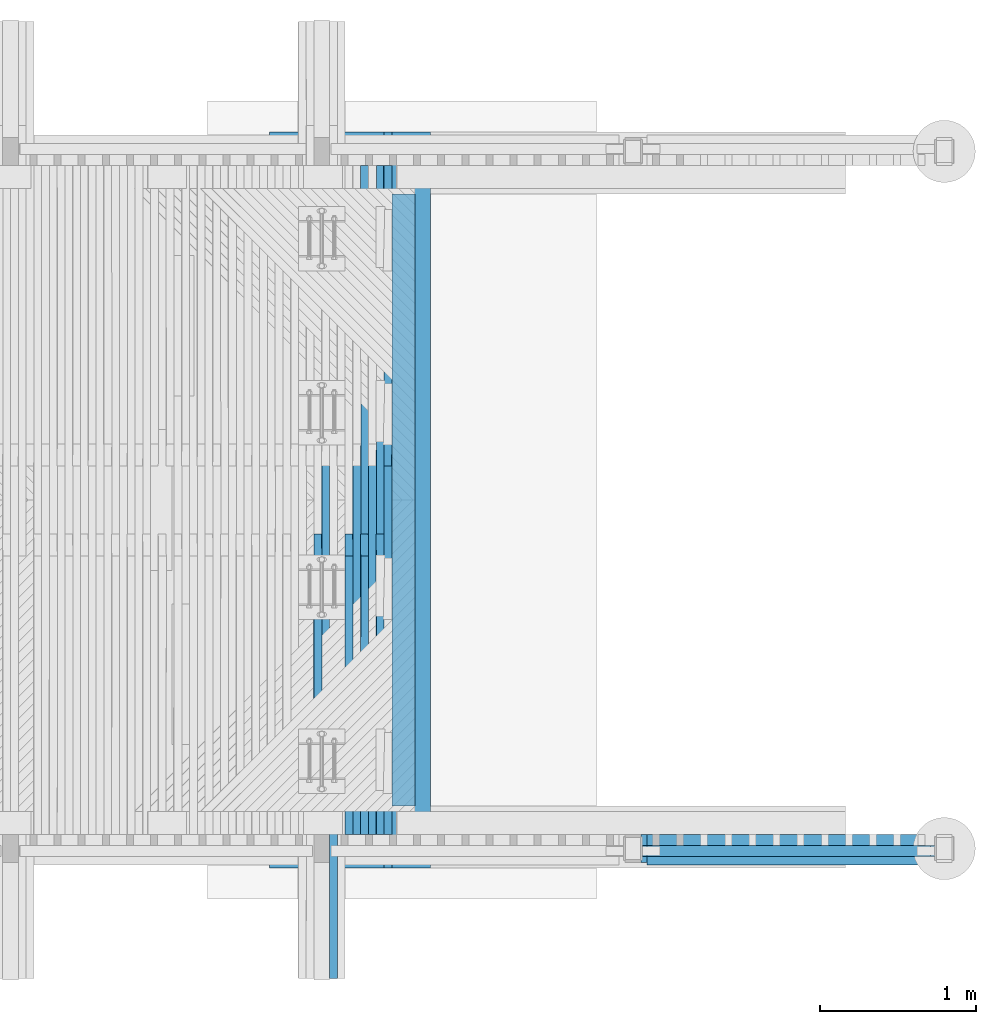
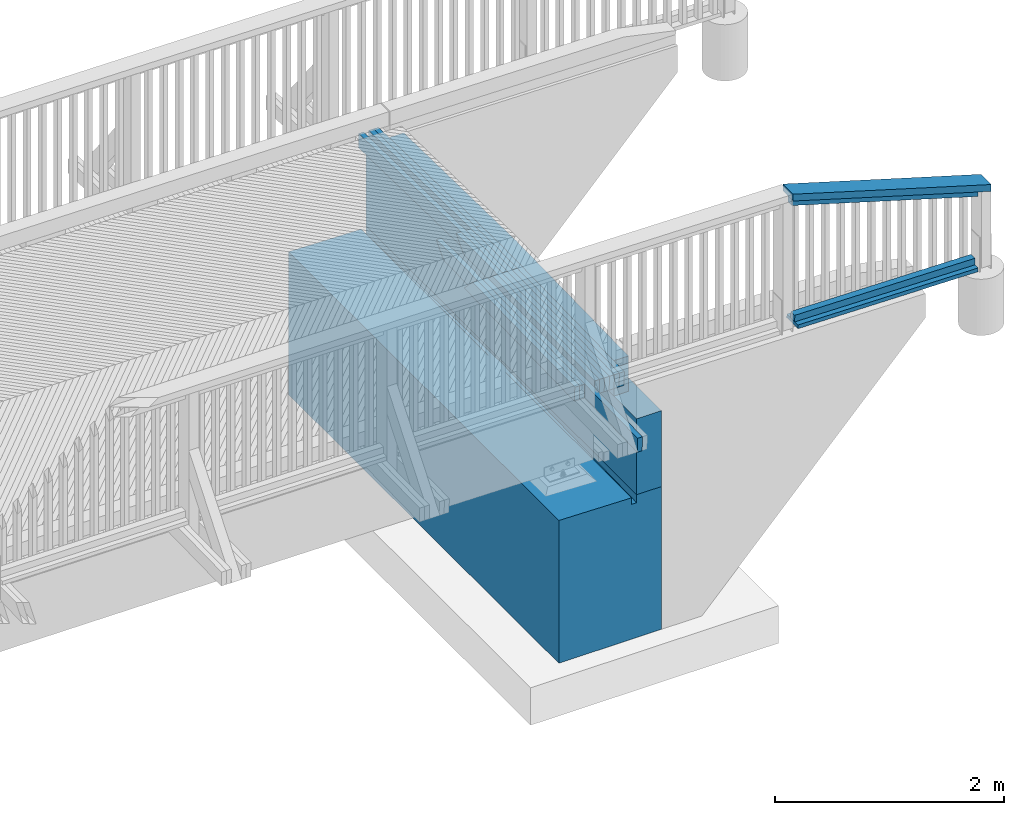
# One storey, part 46 of 53: 21 beams.
"""IFC2X3 building model written with IfcOpenShell, lengths in millimetres."""

import ifcopenshell
import ifcopenshell.guid

model = None  # the IFC model being written
_history = None  # IfcOwnerHistory: only IFC2X3 demands one
_inside = {}  # id of a spatial element -> (the spatial element, [elements in it])
_under = {}  # id of a project, library or spatial element -> (it, [spatial elements below it])
_declared = {}  # id of a project -> (the project, [libraries it declares])
_typed = {}  # id of a type object -> (the type object, [elements of that type])
_made_of = {}  # id of a material, layer set ... -> (it, [elements and type objects made of it])


def new_model(schema):
    """Start an empty IFC model of exactly this schema.

    Asked for "IFC4X3", IfcOpenShell would pick the latest addendum, in which some entities
    have other attributes; the version numbers below select the first issue.
    IFC2X3 requires an IfcOwnerHistory on every rooted entity: one is made here for all.
    """
    global model, _history
    if schema == "IFC4X3":
        model = ifcopenshell.file(schema_version=(4, 3, 0, 0))
    else:
        model = ifcopenshell.file(schema=schema)
    _inside.clear()
    _under.clear()
    _declared.clear()
    _typed.clear()
    _made_of.clear()
    _history = None
    if model.schema == "IFC2X3":
        org = make("IfcOrganization", Name="unknown")
        user = make(
            "IfcPersonAndOrganization",
            ThePerson=make("IfcPerson", FamilyName="unknown"),
            TheOrganization=org,
        )
        app = make(
            "IfcApplication",
            ApplicationDeveloper=org,
            Version="unknown",
            ApplicationFullName="unknown",
            ApplicationIdentifier="unknown",
        )
        _history = make(
            "IfcOwnerHistory",
            OwningUser=user,
            OwningApplication=app,
            ChangeAction="ADDED",
            CreationDate=0,
        )
    return model


def make(cls, **values):
    """One entity of the class cls with the attributes given. An attribute that is None is left unset."""
    return model.create_entity(
        cls, **{name: value for name, value in values.items() if value is not None}
    )


def rooted(cls, **values):
    """An entity with a GlobalId (a new one), such as an element, a storey or a relation."""
    return make(cls, GlobalId=ifcopenshell.guid.new(), OwnerHistory=_history, **values)


def si_unit(unit_type, name, prefix=None):
    """IfcSIUnit, for example si_unit("LENGTHUNIT", "METRE", prefix="MILLI")."""
    return make("IfcSIUnit", UnitType=unit_type, Prefix=prefix, Name=name)


def assignment(units):
    """IfcUnitAssignment: the units of a project."""
    return None if units is None else make("IfcUnitAssignment", Units=units)


def point(xyz):
    """IfcCartesianPoint."""
    return None if xyz is None else make("IfcCartesianPoint", Coordinates=xyz)


def direction(xyz):
    """IfcDirection."""
    return None if xyz is None else make("IfcDirection", DirectionRatios=xyz)


def frame(location, z_axis=None, x_axis=None):
    """IfcAxis2Placement3D, a coordinate frame: its origin and axes. An axis left out is left unset."""
    return make(
        "IfcAxis2Placement3D",
        Location=point(location),
        Axis=direction(z_axis),
        RefDirection=direction(x_axis),
    )


def origin_with_axes():
    """The frame at (0, 0, 0) with the z axis (0, 0, 1) and the x axis (1, 0, 0) written out."""
    return frame((0.0, 0.0, 0.0), z_axis=(0.0, 0.0, 1.0), x_axis=(1.0, 0.0, 0.0))


def place(relative_to, where):
    """IfcLocalPlacement: puts the frame where relative to a parent placement (None: the world)."""
    return make(
        "IfcLocalPlacement", PlacementRelTo=relative_to, RelativePlacement=where
    )


def context(
    kind, dimensions, precision=None, world=None, true_north=None, identifier=None
):
    """IfcGeometricRepresentationContext, for example the 3D "Model" context."""
    return make(
        "IfcGeometricRepresentationContext",
        ContextIdentifier=identifier,
        ContextType=kind,
        CoordinateSpaceDimension=dimensions,
        Precision=precision,
        WorldCoordinateSystem=world,
        TrueNorth=true_north,
    )


def subcontext(parent, identifier, kind, view, scale=None):
    """IfcGeometricRepresentationSubContext, for example "Body" below "Model"."""
    return make(
        "IfcGeometricRepresentationSubContext",
        ContextIdentifier=identifier,
        ContextType=kind,
        ParentContext=parent,
        TargetScale=scale,
        TargetView=view,
    )


def project(units=None, contexts=None):
    """IfcProject with its units and contexts."""
    return rooted(
        "IfcProject",
        Name="project",
        RepresentationContexts=contexts,
        UnitsInContext=assignment(units),
    )


def spatial(cls, under=None, at=None, **own):
    """A site, building, storey or space (cls), placed at a placement, below another one or the project."""
    s = rooted(cls, ObjectPlacement=at, **own)
    if under is not None:
        _under.setdefault(under.id(), (under, []))[1].append(s)
    return s


def faces_of(points, faces, orient=None, outer=None):
    """IfcFace entities. A face is a list of loops; a loop is a list of indices into points, from 0.

    orient and outer hold one flag for each loop. By default every Orientation is true, the
    first loop of a face is its IfcFaceOuterBound and the others are IfcFaceBound.
    """
    made = []
    for i, loops in enumerate(faces):
        bounds = []
        for j, loop in enumerate(loops):
            is_outer = j == 0 if outer is None else outer[i][j]
            bounds.append(
                make(
                    "IfcFaceOuterBound" if is_outer else "IfcFaceBound",
                    Bound=make("IfcPolyLoop", Polygon=[points[k] for k in loop]),
                    Orientation=True if orient is None else orient[i][j],
                )
            )
        made.append(make("IfcFace", Bounds=bounds))
    return made


def faceted_brep(points, faces, orient=None, outer=None, voids=None):
    """IfcFacetedBrep: a solid bounded by flat faces; with voids (closed shells), ...WithVoids."""
    shared = [point(p) for p in points]
    hull = make("IfcClosedShell", CfsFaces=faces_of(shared, faces, orient, outer))
    if voids is None:
        return make("IfcFacetedBrep", Outer=hull)
    return make(
        "IfcFacetedBrepWithVoids",
        Outer=hull,
        Voids=[
            make(cls, CfsFaces=faces_of(shared, fs, o, b)) for cls, fs, o, b in voids
        ],
    )


def shape(context_of_items, identifier, shape_type, items):
    """IfcShapeRepresentation: the items that make up one representation, for example the "Body"."""
    return make(
        "IfcShapeRepresentation",
        ContextOfItems=context_of_items,
        RepresentationIdentifier=identifier,
        RepresentationType=shape_type,
        Items=items,
    )


def material(Name=None, Category=None):
    """IfcMaterial."""
    return make("IfcMaterial", Name=Name, Category=Category)


def made_of(thing, what):
    """Note that an element or type object is made of a material, layer set ...; save() writes the relation."""
    if what is not None:
        _made_of.setdefault(what.id(), (what, []))[1].append(thing)
    return thing


def type_object(cls, material=None, **own):
    """A type object (cls), such as IfcWallType, which elements share."""
    return made_of(rooted(cls, **own), material)


def element(
    cls,
    number,
    at=None,
    inside=None,
    cuts=None,
    type_object=None,
    material=None,
    context=None,
    identifier="Body",
    shape_type=None,
    held_by="IfcProductDefinitionShape",
    body=None,
    shapes=None,
    **own,
):
    """One element of the class cls, such as IfcWall. Its Tag is "e" and its number.

    at: its placement. inside: the storey or other place that contains it. cuts: it is an
    opening in that element (IfcRelVoidsElement). A single representation is given by context,
    identifier, shape_type and body (its items); several are given by shapes. held_by: the class
    of the entity that holds the representations. save() writes the other relations.
    """
    e = rooted(cls, Tag="e%d" % number, ObjectPlacement=at, **own)
    if body is not None:
        shapes = [shape(context, identifier, shape_type, body)]
    if shapes is not None:
        e.Representation = make(held_by, Representations=shapes)
    if inside is not None:
        _inside.setdefault(inside.id(), (inside, []))[1].append(e)
    if cuts is not None:
        rooted(
            "IfcRelVoidsElement", RelatingBuildingElement=cuts, RelatedOpeningElement=e
        )
    if type_object is not None:
        _typed.setdefault(type_object.id(), (type_object, []))[1].append(e)
    return made_of(e, material)


def aggregate(whole, parts):
    """IfcRelAggregates: a whole, such as a stair, and the parts it consists of."""
    return rooted("IfcRelAggregates", RelatingObject=whole, RelatedObjects=parts)


def save(model, path):
    """Write the relations noted so far, then the file.

    IfcRelAggregates (storeys below a building ...), IfcRelContainedInSpatialStructure (elements
    in a storey), IfcRelDefinesByType, IfcRelAssociatesMaterial and IfcRelDeclares: one each for
    every whole, place, type object, material and project.
    """
    for whole, parts in _under.values():
        aggregate(whole, parts)
    for where, things in _inside.values():
        rooted(
            "IfcRelContainedInSpatialStructure",
            RelatedElements=things,
            RelatingStructure=where,
        )
    for kind, things in _typed.values():
        rooted("IfcRelDefinesByType", RelatedObjects=things, RelatingType=kind)
    for what, things in _made_of.values():
        rooted("IfcRelAssociatesMaterial", RelatedObjects=things, RelatingMaterial=what)
    for by, libraries in _declared.values():
        rooted("IfcRelDeclares", RelatingContext=by, RelatedDefinitions=libraries)
    model.write(path)


model = new_model("IFC2X3")

# Units and contexts
model_context = context("Model", 3, precision=1e-05, world=origin_with_axes())
body_context = subcontext(model_context, "Body", "Model", "MODEL_VIEW")
ifc_project = project(units=[si_unit("LENGTHUNIT", "METRE", prefix="MILLI"), si_unit("AREAUNIT", "SQUARE_METRE"), si_unit("VOLUMEUNIT", "CUBIC_METRE"), si_unit("MASSUNIT", "GRAM", prefix="KILO"), si_unit("TIMEUNIT", "SECOND"), si_unit("PLANEANGLEUNIT", "RADIAN"), si_unit("SOLIDANGLEUNIT", "STERADIAN"), si_unit("THERMODYNAMICTEMPERATUREUNIT", "DEGREE_CELSIUS"), si_unit("LUMINOUSINTENSITYUNIT", "LUMEN")], contexts=[model_context])

# Site, building, storey
site_placement = place(None, origin_with_axes())
site = spatial("IfcSite", under=ifc_project, at=site_placement, Name="Undefined", CompositionType="ELEMENT")
building_placement = place(site_placement, origin_with_axes())
building = spatial("IfcBuilding", under=site, at=building_placement, Name="Undefined", CompositionType="ELEMENT")
storey_placement = place(building_placement, origin_with_axes())
storey = spatial("IfcBuildingStorey", under=building, at=storey_placement, Name="Undefined", CompositionType="ELEMENT", Elevation=0.0)

# Beams
ifc_material_1 = material(Name="TIMBER/Timber_Undefined")
beam_type_1 = type_object("IfcBeamType", Name="150*150", PredefinedType="NOTDEFINED")
beam_1_placement = place(storey_placement, frame((16525.0, 40399.9992755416, 3109.00000000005), z_axis=(1.0, 0.0, 0.0), x_axis=(0.0, 1.0, 0.0)))
element("IfcBeam", 1, at=beam_1_placement, inside=storey, type_object=beam_type_1, material=ifc_material_1, Name="BEAM", ObjectType="150*150", context=body_context, shape_type="Brep", body=[
    faceted_brep([(0.0, -75.0000000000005, 75.0), (0.0, -75.0000000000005, -75.0), (3930.0, -75.0, -75.0), (3930.0, -75.0, 75.0), (3930.0, 3.17681141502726, -75.0), (3930.0, 0.558028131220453, 75.0), (1965.00070282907, 39.8541855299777, 75.0), (0.0, 0.558000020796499, 75.0), (0.0, 3.17678330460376, -75.0), (1965.00070282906, 42.472968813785, -75.0)], [[[0, 1, 2, 3]], [[3, 2, 4, 5]], [[0, 3, 5, 6, 7]], [[1, 0, 7, 8]], [[4, 2, 1, 8, 9]], [[5, 4, 9, 6]], [[8, 7, 6, 9]]]),
])
for number, where, z_axis, x_axis, name in (
    (2, (16525.0, 40399.9992755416, 2959.00000000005), (1.0, 0.0, 0.0), (0.0, 1.0, 0.0), "BEAM"),
    (3, (16525.0, 40399.9992755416, 2809.00000000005), (1.0, 0.0, 0.0), (0.0, 1.0, 0.0), "BEAM"),
):
    element("IfcBeam", number, at=place(storey_placement, frame(where, z_axis=z_axis, x_axis=x_axis)), inside=storey, type_object=beam_type_1, material=ifc_material_1, Name=name, ObjectType="150*150", context=body_context, shape_type="Brep", body=[
        faceted_brep([(3.63797880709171e-12, 75.0000000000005, -75.0), (3.63797880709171e-12, 75.0000000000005, 75.0), (3930.0, 75.0, 75.0), (3930.0, 75.0, -75.0), (0.0, -75.0000000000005, 75.0), (3930.0, -75.0, 75.0), (0.0, -75.0000000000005, -75.0), (3930.0, -75.0, -75.0)], [[[0, 1, 2, 3]], [[1, 4, 5, 2]], [[4, 6, 7, 5]], [[6, 0, 3, 7]], [[5, 7, 3, 2]], [[6, 4, 1, 0]]]),
    ])
ifc_material_2 = material(Name="CONCRETE/Concrete_Undefined")
beam_type_2 = type_object("IfcBeamType", Name="810*250", PredefinedType="NOTDEFINED")
beam_2_placement = place(storey_placement, frame((16575.0, 40000.0, 2329.0), z_axis=(0.0, 0.0, 1.0), x_axis=(0.0, 1.0, 0.0)))
element("IfcBeam", 4, at=beam_2_placement, inside=storey, type_object=beam_type_2, material=ifc_material_2, Name="OTSAMUURI", ObjectType="810*250", context=body_context, shape_type="Brep", body=[
    faceted_brep([(0.0, 125.0, -405.0), (0.0, 125.0, 405.0), (4730.0, 125.0, 405.0), (4730.0, 125.0, -405.0), (0.0, -125.0, 405.0), (4730.0, -125.0, 405.0), (0.0, -125.0, -405.0), (4730.0, -125.0, -405.0)], [[[0, 1, 2, 3]], [[1, 4, 5, 2]], [[4, 6, 7, 5]], [[6, 0, 3, 7]], [[5, 7, 3, 2]], [[6, 4, 1, 0]]]),
])
beam_type_3 = type_object("IfcBeamType", Name="1524*1035", PredefinedType="NOTDEFINED")
beam_3_placement = place(storey_placement, frame((16182.5, 40000.0, 1162.0), z_axis=(0.0, 0.0, 1.0), x_axis=(0.0, 1.0, 0.0)))
element("IfcBeam", 5, at=beam_3_placement, inside=storey, type_object=beam_type_3, material=ifc_material_2, Name="LAAKERIPALKKI", ObjectType="1524*1035", context=body_context, shape_type="Brep", body=[
    faceted_brep([(4730.0, -217.5, 747.0), (2367.30822656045, -217.5, 747.0), (2367.55223388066, -217.5, 737.442575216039), (4730.0, -217.5, 676.997414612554), (2367.55223388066, -267.5, 737.442575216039), (4730.0, -267.5, 676.997414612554), (4730.0, -267.5, 762.0), (2366.92526672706, -267.5, 762.0), (4730.0, 517.5, -762.0), (0.0, 517.5, -762.0), (0.0, 517.5, 762.0), (4730.0, 517.5, 762.0), (0.0, -517.5, -762.0), (4730.0, -517.5, -762.0), (0.0, -517.5, 762.0), (4730.0, -517.5, 762.0), (2363.07473327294, -267.5, 762.0), (0.0, -267.5, 762.0), (0.0, -267.5, 676.997414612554), (0.0, -217.5, 676.997414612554), (0.0, -217.5, 747.0), (2362.45109111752, -267.5, 737.312339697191), (2362.45109111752, -217.5, 737.312339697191), (2362.69177343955, -217.5, 747.0)], [[[0, 1, 2, 3]], [[3, 2, 4, 5]], [[6, 5, 4, 7]], [[8, 9, 10, 11]], [[12, 9, 8, 13]], [[14, 12, 13, 15]], [[16, 17, 14, 15, 6, 7]], [[9, 12, 14, 17, 18, 19, 20, 10]], [[16, 7, 4, 21, 18, 17]], [[18, 21, 4, 2, 22, 19]], [[20, 19, 22, 2, 1, 23]], [[11, 10, 20, 23, 1, 0]], [[15, 13, 8, 11, 0, 3, 5, 6]]]),
])
beam_type_4 = type_object("IfcBeamType", Name="70*70", PredefinedType="NOTDEFINED")
beam_4_placement = place(storey_placement, frame((19930.4049244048, 40110.0099547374, 3879.53617466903), z_axis=(0.0, -1.0, 0.0), x_axis=(-0.958203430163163, 0.0, 0.286087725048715)))
element("IfcBeam", 6, at=beam_4_placement, inside=storey, type_object=beam_type_4, material=ifc_material_1, Name="BEAM", ObjectType="70*70", context=body_context, shape_type="Brep", body=[
    faceted_brep([(-20.4634471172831, 34.9999999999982, -35.0), (-20.4634471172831, 34.9999999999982, 35.0), (1941.54163533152, 34.9999999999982, 35.0), (1941.54163533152, 34.9999999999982, -35.0), (0.436228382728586, -35.0000000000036, 35.0), (1962.44131083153, -35.0000000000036, 35.0), (0.436228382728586, -35.0000000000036, -35.0), (1962.44131083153, -35.0000000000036, -35.0)], [[[0, 1, 2, 3]], [[1, 4, 5, 2]], [[4, 6, 7, 5]], [[6, 0, 3, 7]], [[5, 7, 3, 2]], [[6, 4, 1, 0]]]),
])
beam_5_placement = place(storey_placement, frame((19909.4703719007, 40110.0099700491, 3156.34116342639), z_axis=(0.0, -1.0, 0.0), x_axis=(-0.999883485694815, 0.0, 0.0152648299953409)))
element("IfcBeam", 7, at=beam_5_placement, inside=storey, type_object=beam_type_4, material=ifc_material_1, Name="BEAM", ObjectType="70*70", context=body_context, shape_type="Brep", body=[
    faceted_brep([(-3.63797880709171e-12, 35.0000000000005, -35.0), (-3.63797880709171e-12, 35.0000000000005, 35.0), (1820.22135781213, 35.0, 35.0), (1820.22135781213, 35.0, -35.0), (-3.63797880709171e-12, -34.9999999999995, 35.0), (1820.22135781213, -34.9999999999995, 35.0), (-3.63797880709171e-12, -34.9999999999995, -35.0), (1820.22135781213, -34.9999999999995, -35.0)], [[[0, 1, 2, 3]], [[1, 4, 5, 2]], [[4, 6, 7, 5]], [[6, 0, 3, 7]], [[5, 7, 3, 2]], [[6, 4, 1, 0]]]),
])
beam_type_5 = type_object("IfcBeamType", Name="195*40", PredefinedType="NOTDEFINED")
beam_6_placement = place(storey_placement, frame((19909.6993443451, 40117.5099700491, 3101.33941571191), z_axis=(0.0, -1.0, 0.0), x_axis=(-0.999883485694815, 0.0, 0.0152648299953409)))
element("IfcBeam", 8, at=beam_6_placement, inside=storey, type_object=beam_type_5, material=ifc_material_1, Name="BEAM", ObjectType="195*40", context=body_context, shape_type="Brep", body=[
    faceted_brep([(0.0, 20.0, -97.5), (0.0, 20.0, 97.5), (1820.22135781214, 20.0, 97.5), (1820.22135781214, 20.0, -97.5), (3.63797880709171e-12, -20.0, 97.5), (1820.22135781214, -20.0, 97.5), (3.63797880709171e-12, -20.0, -97.5), (1820.22135781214, -20.0, -97.5)], [[[0, 1, 2, 3]], [[1, 4, 5, 2]], [[4, 6, 7, 5]], [[6, 0, 3, 7]], [[5, 7, 3, 2]], [[6, 4, 1, 0]]]),
])
beam_type_6 = type_object("IfcBeamType", Name="180*70", PredefinedType="NOTDEFINED")
beam_7_placement = place(storey_placement, frame((18039.9342024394, 40125.0099640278, 4517.05500293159), z_axis=(0.0, -1.0, 0.0), x_axis=(0.958243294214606, 0.0, -0.285954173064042)))
element("IfcBeam", 9, at=beam_7_placement, inside=storey, type_object=beam_type_6, material=ifc_material_1, Name="YLÄJOHDE", ObjectType="180*70", context=body_context, shape_type="Brep", body=[
    faceted_brep([(41.6879268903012, -35.0699417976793, -90.0), (41.6879268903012, -35.0699417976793, 90.0), (20.9594530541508, -35.0351891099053, 90.0), (20.9594530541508, -35.0351891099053, -90.0), (41.8028913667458, 34.9299637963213, 90.0), (0.0598773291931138, 34.9999487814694, 90.0), (41.8028913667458, 34.9299637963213, -90.0), (0.0598773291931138, 34.9999487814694, -90.0), (83.5459100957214, 34.8628353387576, -90.0), (83.4357358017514, -35.1370779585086, -90.0), (83.4357358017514, -35.1370779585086, 90.0), (83.5459100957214, 34.8628353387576, 90.0), (125.288933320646, 34.7985634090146, 90.0), (125.288933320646, 34.7985634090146, -90.0), (125.183549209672, -35.2013572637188, -90.0), (125.183549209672, -35.2013572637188, 90.0), (166.931366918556, -35.2627797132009, 90.0), (167.031960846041, 34.7371480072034, 90.0), (167.031960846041, 34.7371480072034, -90.0), (166.931366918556, -35.2627797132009, -90.0), (208.679188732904, -35.3213453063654, -90.0), (208.679188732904, -35.3213453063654, 90.0), (208.774992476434, 34.6785891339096, 90.0), (208.774992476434, 34.6785891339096, -90.0), (250.518028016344, 34.6228867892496, -90.0), (250.42701445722, -35.3770540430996, -90.0), (250.42701445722, -35.3770540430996, 90.0), (250.518028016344, 34.6228867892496, 90.0), (292.261067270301, 34.5700409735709, 90.0), (292.261067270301, 34.5700409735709, -90.0), (292.174843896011, -35.4299059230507, -90.0), (292.174843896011, -35.4299059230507, 90.0), (333.922676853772, -35.4799009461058, 90.0), (334.004110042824, 34.52005168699, 90.0), (334.004110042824, 34.52005168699, -90.0), (333.922676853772, -35.4799009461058, -90.0), (375.670513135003, -35.5270391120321, -90.0), (375.670513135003, -35.5270391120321, 90.0), (375.747156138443, 34.4729189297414, 90.0), (375.747156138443, 34.4729189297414, -90.0), (417.490205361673, 34.4286427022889, -90.0), (417.418352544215, -35.5713204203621, -90.0), (417.418352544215, -35.5713204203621, 90.0), (417.490205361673, 34.4286427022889, 90.0), (459.233257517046, 34.3872230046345, 90.0), (459.233257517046, 34.3872230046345, -90.0), (459.166194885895, -35.6127448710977, -90.0), (459.166194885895, -35.6127448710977, 90.0), (500.914039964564, -35.6513124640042, 90.0), (500.97631240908, 34.3486598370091, 90.0), (500.97631240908, 34.3486598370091, -90.0), (500.914039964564, -35.6513124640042, -90.0), (542.661887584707, -35.6870231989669, -90.0), (542.661887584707, -35.6870231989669, 90.0), (542.719369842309, 34.3129531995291, 90.0), (542.719369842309, 34.3129531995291, -90.0), (584.462429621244, 34.2801030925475, -90.0), (584.40973755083, -35.7198770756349, -90.0), (584.40973755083, -35.7198770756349, 90.0), (584.462429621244, 34.2801030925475, 90.0), (626.205491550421, 34.2501095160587, 90.0), (626.205491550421, 34.2501095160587, -90.0), (626.157589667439, -35.7498740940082, -90.0), (626.157589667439, -35.7498740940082, 90.0), (667.905443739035, -35.7770142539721, 90.0), (667.948555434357, 34.2229724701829, 90.0), (667.948555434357, 34.2229724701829, -90.0), (667.905443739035, -35.7770142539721, -90.0), (709.653299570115, -35.801297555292, -90.0), (709.653299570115, -35.801297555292, 90.0), (709.691621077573, 34.1986919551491, 90.0), (709.691621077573, 34.1986919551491, -90.0), (751.434688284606, 34.1772679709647, -90.0), (751.401156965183, -35.8227239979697, -90.0), (751.401156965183, -35.8227239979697, 90.0), (751.434688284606, 34.1772679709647, 90.0), (793.177756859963, 34.1587005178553, 90.0), (793.177756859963, 34.1587005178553, -90.0), (793.149015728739, -35.8412935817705, -90.0), (793.149015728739, -35.8412935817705, 90.0), (834.896875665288, -35.8570063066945, 90.0), (834.920826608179, 34.1429895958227, 90.0), (834.920826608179, 34.1429895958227, -90.0), (834.896875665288, -35.8570063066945, -90.0), (876.644736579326, -35.8698621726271, -90.0), (876.644736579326, -35.8698621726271, 90.0), (876.663897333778, 34.1301352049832, 90.0), (876.663897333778, 34.1301352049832, -90.0), (918.406968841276, 34.1201373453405, -90.0), (918.392598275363, -35.8798611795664, -90.0), (918.392598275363, -35.8798611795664, 90.0), (918.406968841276, 34.1201373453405, 90.0), (960.150040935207, 34.112996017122, 90.0), (960.150040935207, 34.112996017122, -90.0), (960.140460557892, -35.8870033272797, -90.0), (960.140460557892, -35.8870033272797, 90.0), (1001.88832323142, -35.8912886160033, 90.0), (1001.89311342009, 34.1087112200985, 90.0), (1001.89311342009, 34.1087112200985, -90.0), (1001.88832323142, -35.8912886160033, -90.0), (1043.63618610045, -35.8927170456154, -90.0), (1043.63618610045, -35.8927170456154, 90.0), (1043.63618610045, 34.1072829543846, 90.0), (1043.63618610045, 34.1072829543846, -90.0), (1085.3792587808, 34.1087112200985, -90.0), (1085.38404896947, -35.8912886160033, -90.0), (1085.38404896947, -35.8912886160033, 90.0), (1085.3792587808, 34.1087112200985, 90.0), (1127.12233126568, 34.112996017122, 90.0), (1127.12233126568, 34.112996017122, -90.0), (1127.131911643, -35.8870033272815, -90.0), (1127.131911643, -35.8870033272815, 90.0), (1168.87977392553, -35.8798611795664, 90.0), (1168.86540335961, 34.1201373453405, 90.0), (1168.86540335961, 34.1201373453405, -90.0), (1168.87977392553, -35.8798611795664, -90.0), (1210.62763562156, -35.8698621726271, -90.0), (1210.62763562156, -35.8698621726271, 90.0), (1210.60847486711, 34.130135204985, 90.0), (1210.60847486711, 34.130135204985, -90.0), (1252.35154559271, 34.1429895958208, -90.0), (1252.3754965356, -35.8570063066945, -90.0), (1252.3754965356, -35.8570063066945, 90.0), (1252.35154559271, 34.1429895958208, 90.0), (1294.09461534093, 34.1587005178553, 90.0), (1294.09461534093, 34.1587005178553, -90.0), (1294.12335647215, -35.8412935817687, -90.0), (1294.12335647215, -35.8412935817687, 90.0), (1335.87121523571, -35.8227239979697, 90.0), (1335.83768391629, 34.1772679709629, 90.0), (1335.83768391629, 34.1772679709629, -90.0), (1335.87121523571, -35.8227239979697, -90.0), (1377.61907263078, -35.801297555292, -90.0), (1377.61907263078, -35.801297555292, 90.0), (1377.58075112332, 34.1986919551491, 90.0), (1377.58075112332, 34.1986919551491, -90.0), (1419.32381676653, 34.222972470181, -90.0), (1419.36692846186, -35.7770142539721, -90.0), (1419.36692846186, -35.7770142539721, 90.0), (1419.32381676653, 34.222972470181, 90.0), (1461.06688065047, 34.2501095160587, 90.0), (1461.06688065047, 34.2501095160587, -90.0), (1461.11478253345, -35.74987409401, -90.0), (1461.11478253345, -35.74987409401, 90.0), (1502.86263465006, -35.7198770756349, 90.0), (1502.80994257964, 34.2801030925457, 90.0), (1502.80994257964, 34.2801030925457, -90.0), (1502.86263465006, -35.7198770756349, -90.0), (1544.61048461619, -35.6870231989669, -90.0), (1544.61048461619, -35.6870231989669, 90.0), (1544.55300235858, 34.3129531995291, 90.0), (1544.55300235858, 34.3129531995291, -90.0), (1586.29605979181, 34.3486598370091, -90.0), (1586.35833223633, -35.6513124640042, -90.0), (1586.35833223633, -35.6513124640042, 90.0), (1586.29605979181, 34.3486598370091, 90.0), (1628.03911468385, 34.3872230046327, 90.0), (1628.03911468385, 34.3872230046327, -90.0), (1628.10617731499, -35.6127448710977, -90.0), (1628.10617731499, -35.6127448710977, 90.0), (1669.85401965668, -35.5713204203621, 90.0), (1669.78216683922, 34.4286427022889, 90.0), (1669.78216683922, 34.4286427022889, -90.0), (1669.85401965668, -35.5713204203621, -90.0), (1711.60185906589, -35.5270391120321, -90.0), (1711.60185906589, -35.5270391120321, 90.0), (1711.52521606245, 34.4729189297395, 90.0), (1711.52521606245, 34.4729189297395, -90.0), (1753.26826215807, 34.52005168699, -90.0), (1753.34969534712, -35.4799009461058, -90.0), (1753.34969534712, -35.4799009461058, 90.0), (1753.26826215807, 34.52005168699, 90.0), (1795.01130493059, 34.5700409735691, 90.0), (1795.01130493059, 34.5700409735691, -90.0), (1795.09752830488, -35.4299059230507, -90.0), (1795.09752830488, -35.4299059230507, 90.0), (1836.84535774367, -35.3770540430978, 90.0), (1836.75434418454, 34.6228867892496, 90.0), (1836.75434418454, 34.6228867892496, -90.0), (1836.84535774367, -35.3770540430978, -90.0), (1878.59318346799, -35.3213453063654, -90.0), (1878.59318346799, -35.3213453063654, 90.0), (1878.49737972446, 34.6785891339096, 90.0), (1878.49737972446, 34.6785891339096, -90.0), (1920.24041135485, 34.7371480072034, -90.0), (1920.34100528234, -35.2627797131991, -90.0), (1920.34100528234, -35.2627797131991, 90.0), (1920.24041135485, 34.7371480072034, 90.0), (1961.98343888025, 34.7985634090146, 90.0), (1961.98343888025, 34.7985634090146, -90.0), (1962.08882299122, -35.2013572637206, -90.0), (1962.08882299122, -35.2013572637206, 90.0), (2003.83663639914, -35.1370779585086, 90.0), (2003.72646210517, 34.8628353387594, 90.0), (2003.72646210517, 34.8628353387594, -90.0), (2003.83663639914, -35.1370779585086, -90.0), (2045.58444531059, -35.0699417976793, 90.0), (2045.58444531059, -35.0699417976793, -90.0), (2087.33224953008, -34.9999487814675, -90.0), (2087.33224953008, -34.9999487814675, 90.0), (2045.46948083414, 34.9299637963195, 90.0), (2045.46948083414, 34.9299637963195, -90.0), (2087.2124948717, 34.9999487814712, -90.0), (2108.09074495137, -34.9637252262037, -90.0), (2108.09074495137, -34.9637252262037, 90.0), (2087.2124948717, 34.9999487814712, 90.0)], [[[0, 1, 2, 3]], [[1, 4, 5, 2]], [[4, 6, 7, 5]], [[2, 5, 7, 3]], [[6, 0, 3, 7]], [[0, 6, 8, 9]], [[1, 0, 9, 10]], [[4, 1, 10, 11]], [[6, 4, 11, 8]], [[8, 11, 12, 13]], [[9, 8, 13, 14]], [[10, 9, 14, 15]], [[11, 10, 15, 12]], [[12, 15, 16, 17]], [[13, 12, 17, 18]], [[14, 13, 18, 19]], [[15, 14, 19, 16]], [[16, 19, 20, 21]], [[17, 16, 21, 22]], [[18, 17, 22, 23]], [[19, 18, 23, 20]], [[20, 23, 24, 25]], [[21, 20, 25, 26]], [[22, 21, 26, 27]], [[23, 22, 27, 24]], [[24, 27, 28, 29]], [[25, 24, 29, 30]], [[26, 25, 30, 31]], [[27, 26, 31, 28]], [[28, 31, 32, 33]], [[29, 28, 33, 34]], [[30, 29, 34, 35]], [[31, 30, 35, 32]], [[32, 35, 36, 37]], [[33, 32, 37, 38]], [[34, 33, 38, 39]], [[35, 34, 39, 36]], [[36, 39, 40, 41]], [[37, 36, 41, 42]], [[38, 37, 42, 43]], [[39, 38, 43, 40]], [[40, 43, 44, 45]], [[41, 40, 45, 46]], [[42, 41, 46, 47]], [[43, 42, 47, 44]], [[44, 47, 48, 49]], [[45, 44, 49, 50]], [[46, 45, 50, 51]], [[47, 46, 51, 48]], [[48, 51, 52, 53]], [[49, 48, 53, 54]], [[50, 49, 54, 55]], [[51, 50, 55, 52]], [[52, 55, 56, 57]], [[53, 52, 57, 58]], [[54, 53, 58, 59]], [[55, 54, 59, 56]], [[56, 59, 60, 61]], [[57, 56, 61, 62]], [[58, 57, 62, 63]], [[59, 58, 63, 60]], [[60, 63, 64, 65]], [[61, 60, 65, 66]], [[62, 61, 66, 67]], [[63, 62, 67, 64]], [[64, 67, 68, 69]], [[65, 64, 69, 70]], [[66, 65, 70, 71]], [[67, 66, 71, 68]], [[68, 71, 72, 73]], [[69, 68, 73, 74]], [[70, 69, 74, 75]], [[71, 70, 75, 72]], [[72, 75, 76, 77]], [[73, 72, 77, 78]], [[74, 73, 78, 79]], [[75, 74, 79, 76]], [[76, 79, 80, 81]], [[77, 76, 81, 82]], [[78, 77, 82, 83]], [[79, 78, 83, 80]], [[80, 83, 84, 85]], [[81, 80, 85, 86]], [[82, 81, 86, 87]], [[83, 82, 87, 84]], [[84, 87, 88, 89]], [[85, 84, 89, 90]], [[86, 85, 90, 91]], [[87, 86, 91, 88]], [[88, 91, 92, 93]], [[89, 88, 93, 94]], [[90, 89, 94, 95]], [[91, 90, 95, 92]], [[92, 95, 96, 97]], [[93, 92, 97, 98]], [[94, 93, 98, 99]], [[95, 94, 99, 96]], [[96, 99, 100, 101]], [[97, 96, 101, 102]], [[98, 97, 102, 103]], [[99, 98, 103, 100]], [[100, 103, 104, 105]], [[101, 100, 105, 106]], [[102, 101, 106, 107]], [[103, 102, 107, 104]], [[104, 107, 108, 109]], [[105, 104, 109, 110]], [[106, 105, 110, 111]], [[107, 106, 111, 108]], [[108, 111, 112, 113]], [[109, 108, 113, 114]], [[110, 109, 114, 115]], [[111, 110, 115, 112]], [[112, 115, 116, 117]], [[113, 112, 117, 118]], [[114, 113, 118, 119]], [[115, 114, 119, 116]], [[116, 119, 120, 121]], [[117, 116, 121, 122]], [[118, 117, 122, 123]], [[119, 118, 123, 120]], [[120, 123, 124, 125]], [[121, 120, 125, 126]], [[122, 121, 126, 127]], [[123, 122, 127, 124]], [[124, 127, 128, 129]], [[125, 124, 129, 130]], [[126, 125, 130, 131]], [[127, 126, 131, 128]], [[128, 131, 132, 133]], [[129, 128, 133, 134]], [[130, 129, 134, 135]], [[131, 130, 135, 132]], [[132, 135, 136, 137]], [[133, 132, 137, 138]], [[134, 133, 138, 139]], [[135, 134, 139, 136]], [[136, 139, 140, 141]], [[137, 136, 141, 142]], [[138, 137, 142, 143]], [[139, 138, 143, 140]], [[140, 143, 144, 145]], [[141, 140, 145, 146]], [[142, 141, 146, 147]], [[143, 142, 147, 144]], [[144, 147, 148, 149]], [[145, 144, 149, 150]], [[146, 145, 150, 151]], [[147, 146, 151, 148]], [[148, 151, 152, 153]], [[149, 148, 153, 154]], [[150, 149, 154, 155]], [[151, 150, 155, 152]], [[152, 155, 156, 157]], [[153, 152, 157, 158]], [[154, 153, 158, 159]], [[155, 154, 159, 156]], [[156, 159, 160, 161]], [[157, 156, 161, 162]], [[158, 157, 162, 163]], [[159, 158, 163, 160]], [[160, 163, 164, 165]], [[161, 160, 165, 166]], [[162, 161, 166, 167]], [[163, 162, 167, 164]], [[164, 167, 168, 169]], [[165, 164, 169, 170]], [[166, 165, 170, 171]], [[167, 166, 171, 168]], [[168, 171, 172, 173]], [[169, 168, 173, 174]], [[170, 169, 174, 175]], [[171, 170, 175, 172]], [[172, 175, 176, 177]], [[173, 172, 177, 178]], [[174, 173, 178, 179]], [[175, 174, 179, 176]], [[176, 179, 180, 181]], [[177, 176, 181, 182]], [[178, 177, 182, 183]], [[179, 178, 183, 180]], [[180, 183, 184, 185]], [[181, 180, 185, 186]], [[182, 181, 186, 187]], [[183, 182, 187, 184]], [[184, 187, 188, 189]], [[185, 184, 189, 190]], [[186, 185, 190, 191]], [[187, 186, 191, 188]], [[188, 191, 192, 193]], [[189, 188, 193, 194]], [[190, 189, 194, 195]], [[191, 190, 195, 192]], [[196, 197, 198, 199]], [[192, 195, 197, 196]], [[193, 192, 196, 200]], [[194, 193, 200, 201]], [[195, 194, 201, 197]], [[197, 201, 202, 198]], [[198, 202, 203]], [[199, 198, 203, 204]], [[199, 204, 205]], [[200, 196, 199, 205]], [[201, 200, 205, 202]], [[204, 203, 202, 205]]]),
])
beam_type_7 = type_object("IfcBeamType", Name="150*50", PredefinedType="NOTDEFINED")
beam_8_placement = place(storey_placement, frame((16074.2687927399, 39292.78933216, 3020.50657104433), z_axis=(0.0133324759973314, -0.0199960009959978, 0.999711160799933), x_axis=(0.000265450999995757, 0.99980005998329, 0.0199942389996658)))
element("IfcBeam", 10, at=beam_8_placement, inside=storey, type_object=beam_type_7, material=ifc_material_1, Name="BEAM", ObjectType="150*50", context=body_context, shape_type="Brep", body=[
    faceted_brep([(1.28420651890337e-08, -24.9999999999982, -74.9999999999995), (-1.28347892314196e-08, -24.9999999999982, 75.0), (-1.28347892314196e-08, 25.0, 75.0), (1.28420651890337e-08, 25.0000000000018, -75.0), (2713.86938248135, -25.0000000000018, 74.9999999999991), (2713.86933800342, 25.0000000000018, 75.0), (2852.32643692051, 24.9999999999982, -75.0000000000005), (2852.32648139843, -25.0000000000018, -75.0000000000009)], [[[0, 1, 2, 3]], [[2, 1, 4, 5]], [[3, 2, 5, 6]], [[0, 3, 6, 7]], [[1, 0, 7, 4]], [[7, 6, 5, 4]]]),
])
beam_9_placement = place(storey_placement, frame((16374.1835977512, 44513.4953923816, 3034.87917629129), z_axis=(0.013832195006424, 0.0199960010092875, 0.999704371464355), x_axis=(0.000276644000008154, -0.999800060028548, 0.0199940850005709)))
element("IfcBeam", 11, at=beam_9_placement, inside=storey, type_object=beam_type_7, material=ifc_material_1, Name="BEAM", ObjectType="150*50", context=body_context, shape_type="Brep", body=[
    faceted_brep([(1.28420651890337e-08, -24.9999999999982, -74.9999999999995), (1.28420651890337e-08, 25.0000000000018, -75.0), (2375.00494422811, 25.0000000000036, -75.0), (2375.0049444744, -24.9999999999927, -74.9999999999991), (-1.28347892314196e-08, -24.9999999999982, 75.0), (-1.28347892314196e-08, 25.0, 75.0), (2150.42515052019, 25.0000000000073, 75.0), (2510.59248715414, 25.0000000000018, 60.5875433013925), (2510.5924871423, -24.9999999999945, 60.5875430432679), (2150.42514405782, -24.9999999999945, 75.0)], [[[0, 1, 2, 3]], [[0, 4, 5, 1]], [[2, 1, 5, 6, 7]], [[3, 2, 7, 8]], [[4, 0, 3, 8, 9]], [[5, 4, 9, 6]], [[8, 7, 6, 9]]]),
])
beam_10_placement = place(storey_placement, frame((16374.1835977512, 40216.5046076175, 3034.87917629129), z_axis=(0.013832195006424, -0.0199960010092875, 0.999704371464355), x_axis=(0.000276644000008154, 0.999800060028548, 0.0199940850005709)))
element("IfcBeam", 12, at=beam_10_placement, inside=storey, type_object=beam_type_7, material=ifc_material_1, Name="BEAM", ObjectType="150*50", context=body_context, shape_type="Brep", body=[
    faceted_brep([(1.28420651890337e-08, -24.9999999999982, -74.9999999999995), (-1.28347892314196e-08, -24.9999999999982, 75.0), (-1.28347892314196e-08, 25.0, 75.0), (1.28420651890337e-08, 25.0000000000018, -75.0), (1789.96936433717, -25.0000000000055, 74.9999999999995), (1789.96936408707, 24.9999999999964, 75.0000000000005), (1928.42646328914, 24.9999999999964, -74.9999999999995), (1928.42646353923, -25.0000000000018, -75.0)], [[[0, 1, 2, 3]], [[2, 1, 4, 5]], [[3, 2, 5, 6]], [[0, 3, 6, 7]], [[1, 0, 7, 4]], [[6, 5, 4, 7]]]),
])
beam_11_placement = place(storey_placement, frame((16424.1987277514, 44513.4953923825, 3034.17884260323), z_axis=(0.0139982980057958, 0.0199960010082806, 0.999702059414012), x_axis=(0.00027996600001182, -0.999800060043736, 0.0199940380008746)))
element("IfcBeam", 13, at=beam_11_placement, inside=storey, type_object=beam_type_7, material=ifc_material_1, Name="BEAM", ObjectType="150*50", context=body_context, shape_type="Brep", body=[
    faceted_brep([(1.28420651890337e-08, -24.9999999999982, -74.9999999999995), (-1.28347892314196e-08, -24.9999999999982, 75.0), (-1.28347892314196e-08, 25.0, 75.0), (1.28420651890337e-08, 25.0000000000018, -75.0), (1789.96936408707, 24.9999999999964, 75.0000000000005), (1928.42646328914, 24.9999999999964, -74.9999999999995), (1928.42646353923, -25.0000000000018, -75.0), (1789.96936433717, -25.0000000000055, 74.9999999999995)], [[[0, 1, 2, 3]], [[3, 2, 4, 5]], [[0, 3, 5, 6]], [[1, 0, 6, 7]], [[2, 1, 7, 4]], [[5, 4, 7, 6]]]),
])
beam_12_placement = place(storey_placement, frame((16424.1987277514, 40216.5046076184, 3034.17884260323), z_axis=(0.0139982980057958, -0.0199960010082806, 0.999702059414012), x_axis=(0.00027996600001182, 0.999800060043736, 0.0199940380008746)))
element("IfcBeam", 14, at=beam_12_placement, inside=storey, type_object=beam_type_7, material=ifc_material_1, Name="BEAM", ObjectType="150*50", context=body_context, shape_type="Brep", body=[
    faceted_brep([(1.28420651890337e-08, -24.9999999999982, -74.9999999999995), (-1.28347892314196e-08, -24.9999999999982, 75.0), (-1.28347892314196e-08, 25.0, 75.0), (1.28420651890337e-08, 25.0000000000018, -75.0), (2375.00494422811, 25.0000000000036, -75.0), (2375.0049444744, -24.9999999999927, -74.9999999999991), (2510.5924871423, -24.9999999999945, 60.5875430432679), (2150.42514405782, -24.9999999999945, 75.0), (2150.42515052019, 25.0000000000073, 75.0), (2510.59248715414, 25.0000000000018, 60.5875433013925)], [[[0, 1, 2, 3]], [[0, 3, 4, 5]], [[1, 0, 5, 6, 7]], [[2, 1, 7, 8]], [[4, 3, 2, 8, 9]], [[5, 4, 9, 6]], [[6, 9, 8, 7]]]),
])
beam_13_placement = place(storey_placement, frame((16274.1731307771, 44513.4953923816, 3036.26228302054), z_axis=(0.0136660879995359, 0.0199960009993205, 0.999706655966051), x_axis=(0.000273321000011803, -0.999800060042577, 0.0199941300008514)))
element("IfcBeam", 15, at=beam_13_placement, inside=storey, type_object=beam_type_7, material=ifc_material_1, Name="BEAM", ObjectType="150*50", context=body_context, shape_type="Brep", body=[
    faceted_brep([(1.28420651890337e-08, -24.9999999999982, -74.9999999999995), (1.28420651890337e-08, 25.0000000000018, -75.0), (2375.00494422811, 25.0000000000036, -75.0), (2375.0049444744, -24.9999999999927, -74.9999999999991), (-1.28347892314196e-08, -24.9999999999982, 75.0), (-1.28347892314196e-08, 25.0, 75.0), (2150.42515052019, 25.0000000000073, 75.0), (2510.59248715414, 25.0000000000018, 60.5875433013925), (2510.5924871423, -24.9999999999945, 60.5875430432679), (2150.42514405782, -24.9999999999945, 75.0)], [[[0, 1, 2, 3]], [[0, 4, 5, 1]], [[2, 1, 5, 6, 7]], [[3, 2, 7, 8]], [[4, 0, 3, 8, 9]], [[5, 4, 9, 6]], [[8, 7, 6, 9]]]),
])
beam_14_placement = place(storey_placement, frame((16274.1731307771, 40216.5046076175, 3036.26228302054), z_axis=(0.0136660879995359, -0.0199960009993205, 0.999706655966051), x_axis=(0.000273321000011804, 0.999800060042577, 0.0199941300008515)))
element("IfcBeam", 16, at=beam_14_placement, inside=storey, type_object=beam_type_7, material=ifc_material_1, Name="BEAM", ObjectType="150*50", context=body_context, shape_type="Brep", body=[
    faceted_brep([(1.28420651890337e-08, -24.9999999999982, -74.9999999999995), (-1.28347892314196e-08, -24.9999999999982, 75.0), (-1.28347892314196e-08, 25.0, 75.0), (1.28420651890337e-08, 25.0000000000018, -75.0), (1789.96936433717, -25.0000000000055, 74.9999999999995), (1789.96936408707, 24.9999999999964, 75.0000000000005), (1928.42646328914, 24.9999999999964, -74.9999999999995), (1928.42646353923, -25.0000000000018, -75.0)], [[[0, 1, 2, 3]], [[2, 1, 4, 5]], [[3, 2, 5, 6]], [[0, 3, 6, 7]], [[1, 0, 7, 4]], [[6, 5, 4, 7]]]),
])
beam_15_placement = place(storey_placement, frame((16324.1883764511, 40216.5046076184, 3035.57025962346), z_axis=(0.013832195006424, -0.0199960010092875, 0.999704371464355), x_axis=(0.000276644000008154, 0.999800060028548, 0.0199940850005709)))
element("IfcBeam", 17, at=beam_15_placement, inside=storey, type_object=beam_type_7, material=ifc_material_1, Name="BEAM", ObjectType="150*50", context=body_context, shape_type="Brep", body=[
    faceted_brep([(1.28420651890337e-08, -24.9999999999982, -74.9999999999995), (-1.28347892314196e-08, -24.9999999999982, 75.0), (-1.28347892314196e-08, 25.0, 75.0), (1.28420651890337e-08, 25.0000000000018, -75.0), (2375.00494422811, 25.0000000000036, -75.0), (2375.0049444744, -24.9999999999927, -74.9999999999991), (2510.5924871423, -24.9999999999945, 60.5875430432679), (2150.42514405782, -24.9999999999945, 75.0), (2150.42515052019, 25.0000000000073, 75.0), (2510.59248715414, 25.0000000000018, 60.5875433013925)], [[[0, 1, 2, 3]], [[0, 3, 4, 5]], [[1, 0, 5, 6, 7]], [[2, 1, 7, 8]], [[4, 3, 2, 8, 9]], [[5, 4, 9, 6]], [[6, 9, 8, 7]]]),
])
beam_16_placement = place(storey_placement, frame((16174.162435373, 40216.5046076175, 3037.62877245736), z_axis=(0.0134999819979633, -0.0199960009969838, 0.999708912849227), x_axis=(0.000269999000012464, 0.999800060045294, 0.0199941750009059)))
element("IfcBeam", 18, at=beam_16_placement, inside=storey, type_object=beam_type_7, material=ifc_material_1, Name="BEAM", ObjectType="150*50", context=body_context, shape_type="Brep", body=[
    faceted_brep([(1.28420651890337e-08, -24.9999999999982, -74.9999999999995), (-1.28347892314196e-08, -24.9999999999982, 75.0), (-1.28347892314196e-08, 25.0, 75.0), (1.28420651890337e-08, 25.0000000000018, -75.0), (1789.96936433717, -25.0000000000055, 74.9999999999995), (1789.96936408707, 24.9999999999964, 75.0000000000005), (1928.42646328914, 24.9999999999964, -74.9999999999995), (1928.42646353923, -25.0000000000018, -75.0)], [[[0, 1, 2, 3]], [[2, 1, 4, 5]], [[3, 2, 5, 6]], [[0, 3, 6, 7]], [[1, 0, 7, 4]], [[6, 5, 4, 7]]]),
])
beam_17_placement = place(storey_placement, frame((16224.1777953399, 40216.5046076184, 3036.94505937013), z_axis=(0.0136660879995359, -0.0199960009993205, 0.999706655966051), x_axis=(0.000273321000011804, 0.999800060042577, 0.0199941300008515)))
element("IfcBeam", 19, at=beam_17_placement, inside=storey, type_object=beam_type_7, material=ifc_material_1, Name="BEAM", ObjectType="150*50", context=body_context, shape_type="Brep", body=[
    faceted_brep([(1.28420651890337e-08, -24.9999999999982, -74.9999999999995), (-1.28347892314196e-08, -24.9999999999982, 75.0), (-1.28347892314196e-08, 25.0, 75.0), (1.28420651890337e-08, 25.0000000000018, -75.0), (2375.00494422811, 25.0000000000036, -75.0), (2375.0049444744, -24.9999999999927, -74.9999999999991), (2510.5924871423, -24.9999999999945, 60.5875430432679), (2150.42514405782, -24.9999999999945, 75.0), (2150.42515052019, 25.0000000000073, 75.0), (2510.59248715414, 25.0000000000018, 60.5875433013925)], [[[0, 1, 2, 3]], [[0, 3, 4, 5]], [[1, 0, 5, 6, 7]], [[2, 1, 7, 8]], [[4, 3, 2, 8, 9]], [[5, 4, 9, 6]], [[6, 9, 8, 7]]]),
])
beam_18_placement = place(storey_placement, frame((15974.1403703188, 40216.5046076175, 3040.31189930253), z_axis=(0.0131677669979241, -0.019996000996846, 0.999713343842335), x_axis=(0.000263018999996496, 0.999800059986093, 0.0199942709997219)))
element("IfcBeam", 20, at=beam_18_placement, inside=storey, type_object=beam_type_7, material=ifc_material_1, Name="BEAM", ObjectType="150*50", context=body_context, shape_type="Brep", body=[
    faceted_brep([(1.28420651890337e-08, -24.9999999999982, -74.9999999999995), (-1.28347892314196e-08, -24.9999999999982, 75.0), (-1.28347892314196e-08, 25.0, 75.0), (1.28420651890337e-08, 25.0000000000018, -75.0), (1789.96936433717, -25.0000000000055, 74.9999999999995), (1789.96936408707, 24.9999999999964, 75.0000000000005), (1928.42646328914, 24.9999999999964, -74.9999999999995), (1928.42646353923, -25.0000000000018, -75.0)], [[[0, 1, 2, 3]], [[2, 1, 4, 5]], [[3, 2, 5, 6]], [[0, 3, 6, 7]], [[1, 0, 7, 4]], [[6, 5, 4, 7]]]),
])
beam_19_placement = place(storey_placement, frame((16024.1559547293, 40216.5046076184, 3039.64480689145), z_axis=(0.0133338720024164, -0.0199960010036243, 0.999711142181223), x_axis=(0.000266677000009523, 0.999800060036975, 0.0199942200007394)))
element("IfcBeam", 21, at=beam_19_placement, inside=storey, type_object=beam_type_7, material=ifc_material_1, Name="BEAM", ObjectType="150*50", context=body_context, shape_type="Brep", body=[
    faceted_brep([(1.28420651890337e-08, -24.9999999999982, -74.9999999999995), (-1.28347892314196e-08, -24.9999999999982, 75.0), (-1.28347892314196e-08, 25.0, 75.0), (1.28420651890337e-08, 25.0000000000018, -75.0), (2375.00494422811, 25.0000000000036, -75.0), (2375.0049444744, -24.9999999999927, -74.9999999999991), (2510.5924871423, -24.9999999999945, 60.5875430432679), (2150.42514405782, -24.9999999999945, 75.0), (2150.42515052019, 25.0000000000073, 75.0), (2510.59248715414, 25.0000000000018, 60.5875433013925)], [[[0, 1, 2, 3]], [[0, 3, 4, 5]], [[1, 0, 5, 6, 7]], [[2, 1, 7, 8]], [[4, 3, 2, 8, 9]], [[5, 4, 9, 6]], [[6, 9, 8, 7]]]),
])

save(model, "model.ifc")
